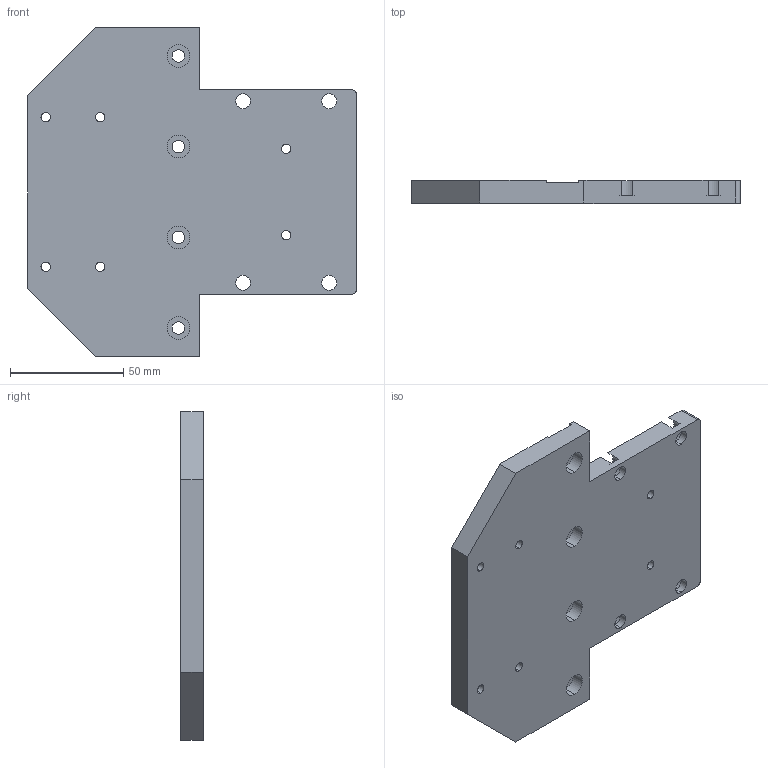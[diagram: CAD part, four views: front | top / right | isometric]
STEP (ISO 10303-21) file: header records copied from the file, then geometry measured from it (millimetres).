
FILE_DESCRIPTION (( 'STEP AP214' ), '1' );
FILE_NAME ('GZ21.05_V1压管移动板.STEP', '2021-02-26T01:13:47', ( '微软中国' ), ( 'Microsoft' ), 'SwSTEP 2.0', 'SolidWorks 2017', '' );
FILE_SCHEMA (( 'AUTOMOTIVE_DESIGN' ));
Length unit declared in the file: millimetre
Products named in the file (1): GZ21.05_V1揤奪痄雄啣
Bounding box: 145 x 10 x 145 mm (x, y, z)
Volume: 155087.4 mm3; surface area: 40620.8 mm2
Topology: 1 solids, 1 shells, 74 faces, 198 edges, 132 vertices
Faces by surface type: cylinder 48, plane 26
Entity records: 2580 total; most frequent: DIRECTION 444, CARTESIAN_POINT 405, ORIENTED_EDGE 396, EDGE_CURVE 198, AXIS2_PLACEMENT_3D 171, VERTEX_POINT 132, EDGE_LOOP 108, VECTOR 102
